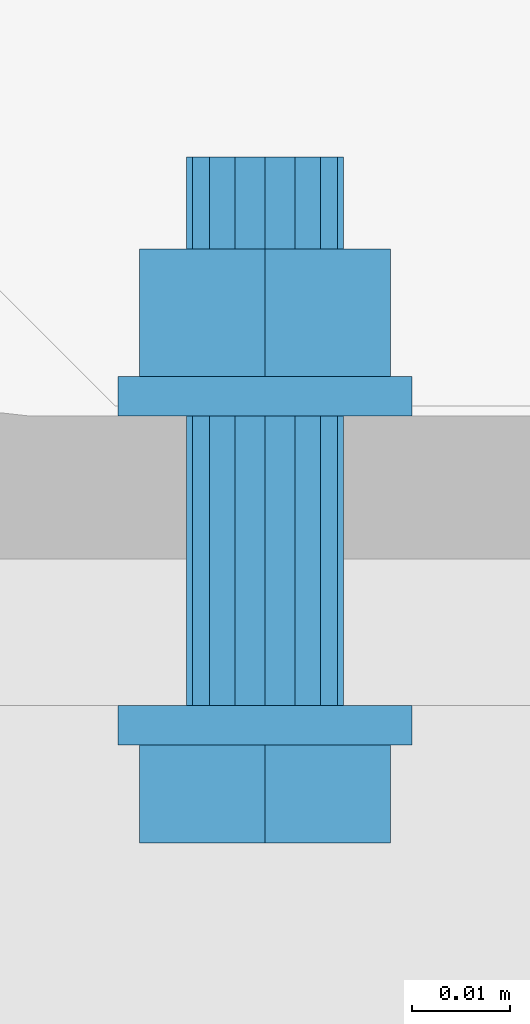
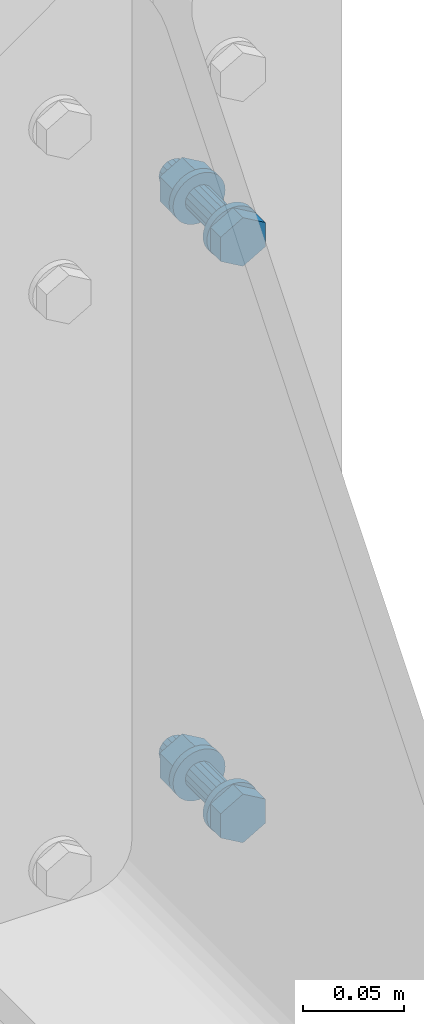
# Not in any storey, part 43 of 50: 2 mechanical fasteners.
"""IFC4 model written with IfcOpenShell, lengths in metres."""

from ifc_helpers import new_model, entity, si_unit, converted_unit, derived_unit, direction, origin, origin_with_axes, place, context, project, spatial, faceted_brep, element, save


model = new_model("IFC4")

# Units and contexts
model_context = context("Model", 3, precision=1e-05, world=origin(), true_north=direction((6.123233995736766e-17, 1.0)))
ifc_project = project(units=[si_unit("LENGTHUNIT", "METRE"), si_unit("AREAUNIT", "SQUARE_METRE"), converted_unit("PLANEANGLEUNIT", "DEGREE", entity("IfcPlaneAngleMeasure", 0.017453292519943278), si_unit("PLANEANGLEUNIT", "RADIAN"), dimensions=[0, 0, 0, 0, 0, 0, 0]), si_unit("VOLUMEUNIT", "CUBIC_METRE"), derived_unit("THERMALTRANSMITTANCEUNIT", [(si_unit("MASSUNIT", "GRAM", prefix="KILO"), 1), (si_unit("THERMODYNAMICTEMPERATUREUNIT", "KELVIN"), -1), (si_unit("TIMEUNIT", "SECOND"), -3)])], contexts=[model_context])

# Site
site_placement = place(None, origin())
site = spatial("IfcSite", under=ifc_project, at=site_placement, Name="Default", CompositionType="ELEMENT")

# Mechanical fasteners
mechanical_fastener_1_placement = place(site_placement, origin_with_axes())
element("IfcMechanicalFastener", 1, at=mechanical_fastener_1_placement, inside=site, ObjectType="Bolt#5", NominalDiameter=0.016, NominalLength=0.06, context=model_context, shape_type="Brep", body=[
    faceted_brep([(18.225144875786, 17.685767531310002, 5.795), (18.225144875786, 17.68976753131, 5.795), (18.22543309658, 17.68976753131, 5.79207364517), (18.22543309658, 17.685767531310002, 5.79207364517), (18.226286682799, 17.68976753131, 5.789259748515), (18.226286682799, 17.685767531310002, 5.789259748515), (18.227672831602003, 17.68976753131, 5.7866664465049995), (18.227672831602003, 17.685767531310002, 5.7866664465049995), (18.229538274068, 17.68976753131, 5.784393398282), (18.229538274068, 17.685767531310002, 5.784393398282), (18.231811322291, 17.68976753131, 5.782527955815), (18.231811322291, 17.685767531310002, 5.782527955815), (18.234404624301, 17.68976753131, 5.781141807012), (18.234404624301, 17.685767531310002, 5.781141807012), (18.237218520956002, 17.68976753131, 5.7802882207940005), (18.237218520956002, 17.685767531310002, 5.7802882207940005), (18.240144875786, 17.68976753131, 5.78), (18.240144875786, 17.685767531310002, 5.78), (18.243071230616, 17.68976753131, 5.7802882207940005), (18.243071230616, 17.685767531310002, 5.7802882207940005), (18.245885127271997, 17.68976753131, 5.781141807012), (18.245885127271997, 17.685767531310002, 5.781141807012), (18.248478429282, 17.68976753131, 5.782527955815), (18.248478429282, 17.685767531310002, 5.782527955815), (18.250751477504, 17.68976753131, 5.784393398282), (18.250751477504, 17.685767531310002, 5.784393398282), (18.252616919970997, 17.68976753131, 5.7866664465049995), (18.252616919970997, 17.685767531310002, 5.7866664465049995), (18.254003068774, 17.68976753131, 5.789259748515), (18.254003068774, 17.685767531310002, 5.789259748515), (18.254856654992, 17.68976753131, 5.79207364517), (18.254856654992, 17.685767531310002, 5.79207364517), (18.255144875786, 17.68976753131, 5.795), (18.255144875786, 17.685767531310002, 5.795), (18.254856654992, 17.68976753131, 5.7979263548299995), (18.254856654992, 17.685767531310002, 5.7979263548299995), (18.254003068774, 17.68976753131, 5.800740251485), (18.254003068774, 17.685767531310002, 5.800740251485), (18.252616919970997, 17.68976753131, 5.803333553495), (18.252616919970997, 17.685767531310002, 5.803333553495), (18.250751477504, 17.68976753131, 5.805606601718), (18.250751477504, 17.685767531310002, 5.805606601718), (18.248478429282, 17.68976753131, 5.807472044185), (18.248478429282, 17.685767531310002, 5.807472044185), (18.245885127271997, 17.68976753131, 5.8088581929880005), (18.245885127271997, 17.685767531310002, 5.8088581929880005), (18.243071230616, 17.68976753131, 5.809711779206), (18.243071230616, 17.685767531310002, 5.809711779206), (18.240144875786, 17.68976753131, 5.81), (18.240144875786, 17.685767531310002, 5.81), (18.237218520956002, 17.68976753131, 5.809711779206), (18.237218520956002, 17.685767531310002, 5.809711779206), (18.234404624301, 17.68976753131, 5.8088581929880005), (18.234404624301, 17.685767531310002, 5.8088581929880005), (18.231811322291, 17.68976753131, 5.807472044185), (18.231811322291, 17.685767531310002, 5.807472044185), (18.229538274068, 17.68976753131, 5.805606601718), (18.229538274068, 17.685767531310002, 5.805606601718), (18.227672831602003, 17.68976753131, 5.803333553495), (18.227672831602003, 17.685767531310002, 5.803333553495), (18.226286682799, 17.68976753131, 5.800740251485), (18.226286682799, 17.685767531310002, 5.800740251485), (18.22543309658, 17.68976753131, 5.7979263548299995), (18.22543309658, 17.685767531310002, 5.7979263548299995)], [[[0, 1, 2, 3]], [[3, 2, 4, 5]], [[5, 4, 6, 7]], [[7, 6, 8, 9]], [[9, 8, 10, 11]], [[11, 10, 12, 13]], [[13, 12, 14, 15]], [[15, 14, 16, 17]], [[17, 16, 18, 19]], [[19, 18, 20, 21]], [[21, 20, 22, 23]], [[23, 22, 24, 25]], [[25, 24, 26, 27]], [[27, 26, 28, 29]], [[29, 28, 30, 31]], [[31, 30, 32, 33]], [[33, 32, 34, 35]], [[35, 34, 36, 37]], [[37, 36, 38, 39]], [[39, 38, 40, 41]], [[41, 40, 42, 43]], [[43, 42, 44, 45]], [[45, 44, 46, 47]], [[47, 46, 48, 49]], [[49, 48, 50, 51]], [[51, 50, 52, 53]], [[53, 52, 54, 55]], [[55, 54, 56, 57]], [[57, 56, 58, 59]], [[59, 58, 60, 61]], [[61, 60, 62, 63]], [[63, 62, 1, 0]], [[0, 3, 5, 7, 9, 11, 13, 15, 17, 19, 21, 23, 25, 27, 29, 31, 33, 35, 37, 39, 41, 43, 45, 47, 49, 51, 53, 55, 57, 59, 61, 63]], [[1, 62, 60, 58, 56, 54, 52, 50, 48, 46, 44, 42, 40, 38, 36, 34, 32, 30, 28, 26, 24, 22, 20, 18, 16, 14, 12, 10, 8, 6, 4, 2]]]),
    faceted_brep([(18.252944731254, 17.685767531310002, 5.78761), (18.252944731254, 17.67576753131, 5.78761), (18.240144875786, 17.67576753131, 5.78022), (18.240144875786, 17.685767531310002, 5.78022), (18.227345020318, 17.67576753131, 5.78761), (18.227345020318, 17.685767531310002, 5.78761), (18.227345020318, 17.67576753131, 5.80239), (18.227345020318, 17.685767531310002, 5.80239), (18.240144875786, 17.67576753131, 5.80978), (18.240144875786, 17.685767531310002, 5.80978), (18.252944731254, 17.67576753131, 5.80239), (18.252944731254, 17.685767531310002, 5.80239)], [[[0, 1, 2, 3]], [[3, 2, 4, 5]], [[5, 4, 6, 7]], [[7, 6, 8, 9]], [[9, 8, 10, 11]], [[11, 10, 1, 0]], [[4, 2, 1, 10, 8, 6]], [[0, 3, 5, 7, 9, 11]]]),
    faceted_brep([(18.232144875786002, 17.68976753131, 5.795), (18.232144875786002, 17.71936753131, 5.795), (18.232753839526, 17.71936753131, 5.791938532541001), (18.232753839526, 17.68976753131, 5.791938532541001), (18.234488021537, 17.71936753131, 5.789343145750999), (18.234488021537, 17.68976753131, 5.789343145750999), (18.237083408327, 17.71936753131, 5.78760896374), (18.237083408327, 17.68976753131, 5.78760896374), (18.240144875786, 17.71936753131, 5.787), (18.240144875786, 17.68976753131, 5.787), (18.243206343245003, 17.71936753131, 5.78760896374), (18.243206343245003, 17.68976753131, 5.78760896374), (18.245801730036, 17.71936753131, 5.789343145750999), (18.245801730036, 17.68976753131, 5.789343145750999), (18.247535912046, 17.71936753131, 5.791938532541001), (18.247535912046, 17.68976753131, 5.791938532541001), (18.248144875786, 17.71936753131, 5.795), (18.248144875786, 17.68976753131, 5.795), (18.247535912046, 17.71936753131, 5.798061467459), (18.247535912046, 17.68976753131, 5.798061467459), (18.245801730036, 17.71936753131, 5.8006568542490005), (18.245801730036, 17.68976753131, 5.8006568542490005), (18.243206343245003, 17.71936753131, 5.8023910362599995), (18.243206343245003, 17.68976753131, 5.8023910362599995), (18.240144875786, 17.71936753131, 5.803), (18.240144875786, 17.68976753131, 5.803), (18.237083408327, 17.71936753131, 5.8023910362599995), (18.237083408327, 17.68976753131, 5.8023910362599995), (18.234488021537, 17.71936753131, 5.8006568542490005), (18.234488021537, 17.68976753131, 5.8006568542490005), (18.232753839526, 17.71936753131, 5.798061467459), (18.232753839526, 17.68976753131, 5.798061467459)], [[[0, 1, 2, 3]], [[3, 2, 4, 5]], [[5, 4, 6, 7]], [[7, 6, 8, 9]], [[9, 8, 10, 11]], [[11, 10, 12, 13]], [[13, 12, 14, 15]], [[15, 14, 16, 17]], [[17, 16, 18, 19]], [[19, 18, 20, 21]], [[21, 20, 22, 23]], [[23, 22, 24, 25]], [[25, 24, 26, 27]], [[27, 26, 28, 29]], [[29, 28, 30, 31]], [[31, 30, 1, 0]], [[0, 3, 5, 7, 9, 11, 13, 15, 17, 19, 21, 23, 25, 27, 29, 31]], [[1, 30, 28, 26, 24, 22, 20, 18, 16, 14, 12, 10, 8, 6, 4, 2]]]),
    faceted_brep([(18.225144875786, 17.71936753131, 5.795), (18.225144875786, 17.72336753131, 5.795), (18.22543309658, 17.72336753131, 5.79207364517), (18.22543309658, 17.71936753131, 5.79207364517), (18.226286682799, 17.72336753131, 5.789259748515), (18.226286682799, 17.71936753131, 5.789259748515), (18.227672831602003, 17.72336753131, 5.7866664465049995), (18.227672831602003, 17.71936753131, 5.7866664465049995), (18.229538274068, 17.72336753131, 5.784393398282), (18.229538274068, 17.71936753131, 5.784393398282), (18.231811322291, 17.72336753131, 5.782527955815), (18.231811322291, 17.71936753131, 5.782527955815), (18.234404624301, 17.72336753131, 5.781141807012), (18.234404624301, 17.71936753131, 5.781141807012), (18.237218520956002, 17.72336753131, 5.7802882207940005), (18.237218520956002, 17.71936753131, 5.7802882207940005), (18.240144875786, 17.72336753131, 5.78), (18.240144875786, 17.71936753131, 5.78), (18.243071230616, 17.72336753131, 5.7802882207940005), (18.243071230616, 17.71936753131, 5.7802882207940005), (18.245885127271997, 17.72336753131, 5.781141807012), (18.245885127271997, 17.71936753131, 5.781141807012), (18.248478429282, 17.72336753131, 5.782527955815), (18.248478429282, 17.71936753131, 5.782527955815), (18.250751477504, 17.72336753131, 5.784393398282), (18.250751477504, 17.71936753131, 5.784393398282), (18.252616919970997, 17.72336753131, 5.7866664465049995), (18.252616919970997, 17.71936753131, 5.7866664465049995), (18.254003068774, 17.72336753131, 5.789259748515), (18.254003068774, 17.71936753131, 5.789259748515), (18.254856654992, 17.72336753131, 5.79207364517), (18.254856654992, 17.71936753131, 5.79207364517), (18.255144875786, 17.72336753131, 5.795), (18.255144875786, 17.71936753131, 5.795), (18.254856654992, 17.72336753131, 5.7979263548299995), (18.254856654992, 17.71936753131, 5.7979263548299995), (18.254003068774, 17.72336753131, 5.800740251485), (18.254003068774, 17.71936753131, 5.800740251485), (18.252616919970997, 17.72336753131, 5.803333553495), (18.252616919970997, 17.71936753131, 5.803333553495), (18.250751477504, 17.72336753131, 5.805606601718), (18.250751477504, 17.71936753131, 5.805606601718), (18.248478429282, 17.72336753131, 5.807472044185), (18.248478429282, 17.71936753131, 5.807472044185), (18.245885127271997, 17.72336753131, 5.8088581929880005), (18.245885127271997, 17.71936753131, 5.8088581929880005), (18.243071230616, 17.72336753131, 5.809711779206), (18.243071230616, 17.71936753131, 5.809711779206), (18.240144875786, 17.72336753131, 5.81), (18.240144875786, 17.71936753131, 5.81), (18.237218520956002, 17.72336753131, 5.809711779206), (18.237218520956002, 17.71936753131, 5.809711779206), (18.234404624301, 17.72336753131, 5.8088581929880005), (18.234404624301, 17.71936753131, 5.8088581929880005), (18.231811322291, 17.72336753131, 5.807472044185), (18.231811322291, 17.71936753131, 5.807472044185), (18.229538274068, 17.72336753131, 5.805606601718), (18.229538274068, 17.71936753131, 5.805606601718), (18.227672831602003, 17.72336753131, 5.803333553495), (18.227672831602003, 17.71936753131, 5.803333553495), (18.226286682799, 17.72336753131, 5.800740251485), (18.226286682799, 17.71936753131, 5.800740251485), (18.22543309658, 17.72336753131, 5.7979263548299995), (18.22543309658, 17.71936753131, 5.7979263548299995)], [[[0, 1, 2, 3]], [[3, 2, 4, 5]], [[5, 4, 6, 7]], [[7, 6, 8, 9]], [[9, 8, 10, 11]], [[11, 10, 12, 13]], [[13, 12, 14, 15]], [[15, 14, 16, 17]], [[17, 16, 18, 19]], [[19, 18, 20, 21]], [[21, 20, 22, 23]], [[23, 22, 24, 25]], [[25, 24, 26, 27]], [[27, 26, 28, 29]], [[29, 28, 30, 31]], [[31, 30, 32, 33]], [[33, 32, 34, 35]], [[35, 34, 36, 37]], [[37, 36, 38, 39]], [[39, 38, 40, 41]], [[41, 40, 42, 43]], [[43, 42, 44, 45]], [[45, 44, 46, 47]], [[47, 46, 48, 49]], [[49, 48, 50, 51]], [[51, 50, 52, 53]], [[53, 52, 54, 55]], [[55, 54, 56, 57]], [[57, 56, 58, 59]], [[59, 58, 60, 61]], [[61, 60, 62, 63]], [[63, 62, 1, 0]], [[0, 3, 5, 7, 9, 11, 13, 15, 17, 19, 21, 23, 25, 27, 29, 31, 33, 35, 37, 39, 41, 43, 45, 47, 49, 51, 53, 55, 57, 59, 61, 63]], [[1, 62, 60, 58, 56, 54, 52, 50, 48, 46, 44, 42, 40, 38, 36, 34, 32, 30, 28, 26, 24, 22, 20, 18, 16, 14, 12, 10, 8, 6, 4, 2]]]),
    faceted_brep([(18.252944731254, 17.736367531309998, 5.78761), (18.252944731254, 17.72336753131, 5.78761), (18.240144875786, 17.72336753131, 5.78022), (18.240144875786, 17.736367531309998, 5.78022), (18.227345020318, 17.72336753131, 5.78761), (18.227345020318, 17.736367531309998, 5.78761), (18.227345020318, 17.72336753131, 5.80239), (18.227345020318, 17.736367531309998, 5.80239), (18.240144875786, 17.72336753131, 5.80978), (18.240144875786, 17.736367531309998, 5.80978), (18.252944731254, 17.72336753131, 5.80239), (18.252944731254, 17.736367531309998, 5.80239)], [[[0, 1, 2, 3]], [[3, 2, 4, 5]], [[5, 4, 6, 7]], [[7, 6, 8, 9]], [[9, 8, 10, 11]], [[11, 10, 1, 0]], [[4, 2, 1, 10, 8, 6]], [[0, 3, 5, 7, 9, 11]]]),
    faceted_brep([(18.232144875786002, 17.736367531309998, 5.795), (18.232144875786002, 17.74576753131, 5.795), (18.232753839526, 17.74576753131, 5.791938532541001), (18.232753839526, 17.736367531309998, 5.791938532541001), (18.234488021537, 17.74576753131, 5.789343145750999), (18.234488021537, 17.736367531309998, 5.789343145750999), (18.237083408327, 17.74576753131, 5.78760896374), (18.237083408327, 17.736367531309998, 5.78760896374), (18.240144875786, 17.74576753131, 5.787), (18.240144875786, 17.736367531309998, 5.787), (18.243206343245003, 17.74576753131, 5.78760896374), (18.243206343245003, 17.736367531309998, 5.78760896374), (18.245801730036, 17.74576753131, 5.789343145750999), (18.245801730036, 17.736367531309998, 5.789343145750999), (18.247535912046, 17.74576753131, 5.791938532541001), (18.247535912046, 17.736367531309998, 5.791938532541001), (18.248144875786, 17.74576753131, 5.795), (18.248144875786, 17.736367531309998, 5.795), (18.247535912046, 17.74576753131, 5.798061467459), (18.247535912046, 17.736367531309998, 5.798061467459), (18.245801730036, 17.74576753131, 5.8006568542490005), (18.245801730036, 17.736367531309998, 5.8006568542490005), (18.243206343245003, 17.74576753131, 5.8023910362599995), (18.243206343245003, 17.736367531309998, 5.8023910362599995), (18.240144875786, 17.74576753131, 5.803), (18.240144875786, 17.736367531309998, 5.803), (18.237083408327, 17.74576753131, 5.8023910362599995), (18.237083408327, 17.736367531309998, 5.8023910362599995), (18.234488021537, 17.74576753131, 5.8006568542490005), (18.234488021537, 17.736367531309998, 5.8006568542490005), (18.232753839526, 17.74576753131, 5.798061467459), (18.232753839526, 17.736367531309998, 5.798061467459)], [[[0, 1, 2, 3]], [[3, 2, 4, 5]], [[5, 4, 6, 7]], [[7, 6, 8, 9]], [[9, 8, 10, 11]], [[11, 10, 12, 13]], [[13, 12, 14, 15]], [[15, 14, 16, 17]], [[17, 16, 18, 19]], [[19, 18, 20, 21]], [[21, 20, 22, 23]], [[23, 22, 24, 25]], [[25, 24, 26, 27]], [[27, 26, 28, 29]], [[29, 28, 30, 31]], [[31, 30, 1, 0]], [[0, 3, 5, 7, 9, 11, 13, 15, 17, 19, 21, 23, 25, 27, 29, 31]], [[1, 30, 28, 26, 24, 22, 20, 18, 16, 14, 12, 10, 8, 6, 4, 2]]]),
])
mechanical_fastener_2_placement = place(site_placement, origin_with_axes())
element("IfcMechanicalFastener", 2, at=mechanical_fastener_2_placement, inside=site, ObjectType="Bolt#6", NominalDiameter=0.016, NominalLength=0.06, context=model_context, shape_type="Brep", body=[
    faceted_brep([(18.225144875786, 17.685767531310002, 5.445), (18.225144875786, 17.68976753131, 5.445), (18.22543309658, 17.68976753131, 5.442073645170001), (18.22543309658, 17.685767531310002, 5.442073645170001), (18.226286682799, 17.68976753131, 5.439259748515), (18.226286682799, 17.685767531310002, 5.439259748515), (18.227672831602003, 17.68976753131, 5.436666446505), (18.227672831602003, 17.685767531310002, 5.436666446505), (18.229538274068, 17.68976753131, 5.434393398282), (18.229538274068, 17.685767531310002, 5.434393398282), (18.231811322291, 17.68976753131, 5.432527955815), (18.231811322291, 17.685767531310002, 5.432527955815), (18.234404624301, 17.68976753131, 5.431141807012), (18.234404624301, 17.685767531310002, 5.431141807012), (18.237218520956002, 17.68976753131, 5.430288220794), (18.237218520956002, 17.685767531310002, 5.430288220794), (18.240144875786, 17.68976753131, 5.43), (18.240144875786, 17.685767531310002, 5.43), (18.243071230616, 17.68976753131, 5.430288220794), (18.243071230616, 17.685767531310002, 5.430288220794), (18.245885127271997, 17.68976753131, 5.431141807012), (18.245885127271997, 17.685767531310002, 5.431141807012), (18.248478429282, 17.68976753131, 5.432527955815), (18.248478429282, 17.685767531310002, 5.432527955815), (18.250751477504, 17.68976753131, 5.434393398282), (18.250751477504, 17.685767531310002, 5.434393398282), (18.252616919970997, 17.68976753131, 5.436666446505), (18.252616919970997, 17.685767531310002, 5.436666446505), (18.254003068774, 17.68976753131, 5.439259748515), (18.254003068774, 17.685767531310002, 5.439259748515), (18.254856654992, 17.68976753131, 5.442073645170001), (18.254856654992, 17.685767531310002, 5.442073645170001), (18.255144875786, 17.68976753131, 5.445), (18.255144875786, 17.685767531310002, 5.445), (18.254856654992, 17.68976753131, 5.44792635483), (18.254856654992, 17.685767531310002, 5.44792635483), (18.254003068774, 17.68976753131, 5.450740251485), (18.254003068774, 17.685767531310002, 5.450740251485), (18.252616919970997, 17.68976753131, 5.453333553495), (18.252616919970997, 17.685767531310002, 5.453333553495), (18.250751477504, 17.68976753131, 5.455606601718), (18.250751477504, 17.685767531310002, 5.455606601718), (18.248478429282, 17.68976753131, 5.457472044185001), (18.248478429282, 17.685767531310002, 5.457472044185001), (18.245885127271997, 17.68976753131, 5.458858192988), (18.245885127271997, 17.685767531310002, 5.458858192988), (18.243071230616, 17.68976753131, 5.459711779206), (18.243071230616, 17.685767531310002, 5.459711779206), (18.240144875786, 17.68976753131, 5.46), (18.240144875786, 17.685767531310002, 5.46), (18.237218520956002, 17.68976753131, 5.459711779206), (18.237218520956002, 17.685767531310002, 5.459711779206), (18.234404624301, 17.68976753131, 5.458858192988), (18.234404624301, 17.685767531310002, 5.458858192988), (18.231811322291, 17.68976753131, 5.457472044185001), (18.231811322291, 17.685767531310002, 5.457472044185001), (18.229538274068, 17.68976753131, 5.455606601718), (18.229538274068, 17.685767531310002, 5.455606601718), (18.227672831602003, 17.68976753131, 5.453333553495), (18.227672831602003, 17.685767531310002, 5.453333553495), (18.226286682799, 17.68976753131, 5.450740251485), (18.226286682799, 17.685767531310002, 5.450740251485), (18.22543309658, 17.68976753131, 5.44792635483), (18.22543309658, 17.685767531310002, 5.44792635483)], [[[0, 1, 2, 3]], [[3, 2, 4, 5]], [[5, 4, 6, 7]], [[7, 6, 8, 9]], [[9, 8, 10, 11]], [[11, 10, 12, 13]], [[13, 12, 14, 15]], [[15, 14, 16, 17]], [[17, 16, 18, 19]], [[19, 18, 20, 21]], [[21, 20, 22, 23]], [[23, 22, 24, 25]], [[25, 24, 26, 27]], [[27, 26, 28, 29]], [[29, 28, 30, 31]], [[31, 30, 32, 33]], [[33, 32, 34, 35]], [[35, 34, 36, 37]], [[37, 36, 38, 39]], [[39, 38, 40, 41]], [[41, 40, 42, 43]], [[43, 42, 44, 45]], [[45, 44, 46, 47]], [[47, 46, 48, 49]], [[49, 48, 50, 51]], [[51, 50, 52, 53]], [[53, 52, 54, 55]], [[55, 54, 56, 57]], [[57, 56, 58, 59]], [[59, 58, 60, 61]], [[61, 60, 62, 63]], [[63, 62, 1, 0]], [[0, 3, 5, 7, 9, 11, 13, 15, 17, 19, 21, 23, 25, 27, 29, 31, 33, 35, 37, 39, 41, 43, 45, 47, 49, 51, 53, 55, 57, 59, 61, 63]], [[1, 62, 60, 58, 56, 54, 52, 50, 48, 46, 44, 42, 40, 38, 36, 34, 32, 30, 28, 26, 24, 22, 20, 18, 16, 14, 12, 10, 8, 6, 4, 2]]]),
    faceted_brep([(18.252944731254, 17.685767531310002, 5.437609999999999), (18.252944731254, 17.67576753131, 5.437609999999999), (18.240144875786, 17.67576753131, 5.43022), (18.240144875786, 17.685767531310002, 5.43022), (18.227345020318, 17.67576753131, 5.437609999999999), (18.227345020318, 17.685767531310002, 5.437609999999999), (18.227345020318, 17.67576753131, 5.45239), (18.227345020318, 17.685767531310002, 5.45239), (18.240144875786, 17.67576753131, 5.459779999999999), (18.240144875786, 17.685767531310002, 5.459779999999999), (18.252944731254, 17.67576753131, 5.45239), (18.252944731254, 17.685767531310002, 5.45239)], [[[0, 1, 2, 3]], [[3, 2, 4, 5]], [[5, 4, 6, 7]], [[7, 6, 8, 9]], [[9, 8, 10, 11]], [[11, 10, 1, 0]], [[4, 2, 1, 10, 8, 6]], [[0, 3, 5, 7, 9, 11]]]),
    faceted_brep([(18.232144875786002, 17.68976753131, 5.445), (18.232144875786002, 17.71936753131, 5.445), (18.232753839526, 17.71936753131, 5.441938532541), (18.232753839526, 17.68976753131, 5.441938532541), (18.234488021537, 17.71936753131, 5.439343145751), (18.234488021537, 17.68976753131, 5.439343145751), (18.237083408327, 17.71936753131, 5.43760896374), (18.237083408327, 17.68976753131, 5.43760896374), (18.240144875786, 17.71936753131, 5.437), (18.240144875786, 17.68976753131, 5.437), (18.243206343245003, 17.71936753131, 5.43760896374), (18.243206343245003, 17.68976753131, 5.43760896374), (18.245801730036, 17.71936753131, 5.439343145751), (18.245801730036, 17.68976753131, 5.439343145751), (18.247535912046, 17.71936753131, 5.441938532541), (18.247535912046, 17.68976753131, 5.441938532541), (18.248144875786, 17.71936753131, 5.445), (18.248144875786, 17.68976753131, 5.445), (18.247535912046, 17.71936753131, 5.4480614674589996), (18.247535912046, 17.68976753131, 5.4480614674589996), (18.245801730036, 17.71936753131, 5.450656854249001), (18.245801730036, 17.68976753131, 5.450656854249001), (18.243206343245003, 17.71936753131, 5.45239103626), (18.243206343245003, 17.68976753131, 5.45239103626), (18.240144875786, 17.71936753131, 5.453), (18.240144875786, 17.68976753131, 5.453), (18.237083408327, 17.71936753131, 5.45239103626), (18.237083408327, 17.68976753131, 5.45239103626), (18.234488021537, 17.71936753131, 5.450656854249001), (18.234488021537, 17.68976753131, 5.450656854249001), (18.232753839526, 17.71936753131, 5.4480614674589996), (18.232753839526, 17.68976753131, 5.4480614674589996)], [[[0, 1, 2, 3]], [[3, 2, 4, 5]], [[5, 4, 6, 7]], [[7, 6, 8, 9]], [[9, 8, 10, 11]], [[11, 10, 12, 13]], [[13, 12, 14, 15]], [[15, 14, 16, 17]], [[17, 16, 18, 19]], [[19, 18, 20, 21]], [[21, 20, 22, 23]], [[23, 22, 24, 25]], [[25, 24, 26, 27]], [[27, 26, 28, 29]], [[29, 28, 30, 31]], [[31, 30, 1, 0]], [[0, 3, 5, 7, 9, 11, 13, 15, 17, 19, 21, 23, 25, 27, 29, 31]], [[1, 30, 28, 26, 24, 22, 20, 18, 16, 14, 12, 10, 8, 6, 4, 2]]]),
    faceted_brep([(18.225144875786, 17.71936753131, 5.445), (18.225144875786, 17.72336753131, 5.445), (18.22543309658, 17.72336753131, 5.442073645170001), (18.22543309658, 17.71936753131, 5.442073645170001), (18.226286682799, 17.72336753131, 5.439259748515), (18.226286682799, 17.71936753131, 5.439259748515), (18.227672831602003, 17.72336753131, 5.436666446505), (18.227672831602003, 17.71936753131, 5.436666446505), (18.229538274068, 17.72336753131, 5.434393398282), (18.229538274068, 17.71936753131, 5.434393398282), (18.231811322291, 17.72336753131, 5.432527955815), (18.231811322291, 17.71936753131, 5.432527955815), (18.234404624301, 17.72336753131, 5.431141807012), (18.234404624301, 17.71936753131, 5.431141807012), (18.237218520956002, 17.72336753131, 5.430288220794), (18.237218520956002, 17.71936753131, 5.430288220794), (18.240144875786, 17.72336753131, 5.43), (18.240144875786, 17.71936753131, 5.43), (18.243071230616, 17.72336753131, 5.430288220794), (18.243071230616, 17.71936753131, 5.430288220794), (18.245885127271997, 17.72336753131, 5.431141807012), (18.245885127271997, 17.71936753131, 5.431141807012), (18.248478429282, 17.72336753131, 5.432527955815), (18.248478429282, 17.71936753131, 5.432527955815), (18.250751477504, 17.72336753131, 5.434393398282), (18.250751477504, 17.71936753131, 5.434393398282), (18.252616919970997, 17.72336753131, 5.436666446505), (18.252616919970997, 17.71936753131, 5.436666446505), (18.254003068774, 17.72336753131, 5.439259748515), (18.254003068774, 17.71936753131, 5.439259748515), (18.254856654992, 17.72336753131, 5.442073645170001), (18.254856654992, 17.71936753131, 5.442073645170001), (18.255144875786, 17.72336753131, 5.445), (18.255144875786, 17.71936753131, 5.445), (18.254856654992, 17.72336753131, 5.44792635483), (18.254856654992, 17.71936753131, 5.44792635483), (18.254003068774, 17.72336753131, 5.450740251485), (18.254003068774, 17.71936753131, 5.450740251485), (18.252616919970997, 17.72336753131, 5.453333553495), (18.252616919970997, 17.71936753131, 5.453333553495), (18.250751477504, 17.72336753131, 5.455606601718), (18.250751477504, 17.71936753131, 5.455606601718), (18.248478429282, 17.72336753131, 5.457472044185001), (18.248478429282, 17.71936753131, 5.457472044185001), (18.245885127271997, 17.72336753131, 5.458858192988), (18.245885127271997, 17.71936753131, 5.458858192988), (18.243071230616, 17.72336753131, 5.459711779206), (18.243071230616, 17.71936753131, 5.459711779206), (18.240144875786, 17.72336753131, 5.46), (18.240144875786, 17.71936753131, 5.46), (18.237218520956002, 17.72336753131, 5.459711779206), (18.237218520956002, 17.71936753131, 5.459711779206), (18.234404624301, 17.72336753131, 5.458858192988), (18.234404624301, 17.71936753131, 5.458858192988), (18.231811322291, 17.72336753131, 5.457472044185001), (18.231811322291, 17.71936753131, 5.457472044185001), (18.229538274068, 17.72336753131, 5.455606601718), (18.229538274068, 17.71936753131, 5.455606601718), (18.227672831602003, 17.72336753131, 5.453333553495), (18.227672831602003, 17.71936753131, 5.453333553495), (18.226286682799, 17.72336753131, 5.450740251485), (18.226286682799, 17.71936753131, 5.450740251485), (18.22543309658, 17.72336753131, 5.44792635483), (18.22543309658, 17.71936753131, 5.44792635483)], [[[0, 1, 2, 3]], [[3, 2, 4, 5]], [[5, 4, 6, 7]], [[7, 6, 8, 9]], [[9, 8, 10, 11]], [[11, 10, 12, 13]], [[13, 12, 14, 15]], [[15, 14, 16, 17]], [[17, 16, 18, 19]], [[19, 18, 20, 21]], [[21, 20, 22, 23]], [[23, 22, 24, 25]], [[25, 24, 26, 27]], [[27, 26, 28, 29]], [[29, 28, 30, 31]], [[31, 30, 32, 33]], [[33, 32, 34, 35]], [[35, 34, 36, 37]], [[37, 36, 38, 39]], [[39, 38, 40, 41]], [[41, 40, 42, 43]], [[43, 42, 44, 45]], [[45, 44, 46, 47]], [[47, 46, 48, 49]], [[49, 48, 50, 51]], [[51, 50, 52, 53]], [[53, 52, 54, 55]], [[55, 54, 56, 57]], [[57, 56, 58, 59]], [[59, 58, 60, 61]], [[61, 60, 62, 63]], [[63, 62, 1, 0]], [[0, 3, 5, 7, 9, 11, 13, 15, 17, 19, 21, 23, 25, 27, 29, 31, 33, 35, 37, 39, 41, 43, 45, 47, 49, 51, 53, 55, 57, 59, 61, 63]], [[1, 62, 60, 58, 56, 54, 52, 50, 48, 46, 44, 42, 40, 38, 36, 34, 32, 30, 28, 26, 24, 22, 20, 18, 16, 14, 12, 10, 8, 6, 4, 2]]]),
    faceted_brep([(18.252944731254, 17.736367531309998, 5.437609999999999), (18.252944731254, 17.72336753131, 5.437609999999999), (18.240144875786, 17.72336753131, 5.43022), (18.240144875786, 17.736367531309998, 5.43022), (18.227345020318, 17.72336753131, 5.437609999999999), (18.227345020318, 17.736367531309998, 5.437609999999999), (18.227345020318, 17.72336753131, 5.45239), (18.227345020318, 17.736367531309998, 5.45239), (18.240144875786, 17.72336753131, 5.459779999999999), (18.240144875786, 17.736367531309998, 5.459779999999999), (18.252944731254, 17.72336753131, 5.45239), (18.252944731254, 17.736367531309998, 5.45239)], [[[0, 1, 2, 3]], [[3, 2, 4, 5]], [[5, 4, 6, 7]], [[7, 6, 8, 9]], [[9, 8, 10, 11]], [[11, 10, 1, 0]], [[4, 2, 1, 10, 8, 6]], [[0, 3, 5, 7, 9, 11]]]),
    faceted_brep([(18.232144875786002, 17.736367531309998, 5.445), (18.232144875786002, 17.74576753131, 5.445), (18.232753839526, 17.74576753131, 5.441938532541), (18.232753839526, 17.736367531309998, 5.441938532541), (18.234488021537, 17.74576753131, 5.439343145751), (18.234488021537, 17.736367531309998, 5.439343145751), (18.237083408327, 17.74576753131, 5.43760896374), (18.237083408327, 17.736367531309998, 5.43760896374), (18.240144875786, 17.74576753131, 5.437), (18.240144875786, 17.736367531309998, 5.437), (18.243206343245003, 17.74576753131, 5.43760896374), (18.243206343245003, 17.736367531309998, 5.43760896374), (18.245801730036, 17.74576753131, 5.439343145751), (18.245801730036, 17.736367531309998, 5.439343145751), (18.247535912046, 17.74576753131, 5.441938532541), (18.247535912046, 17.736367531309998, 5.441938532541), (18.248144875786, 17.74576753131, 5.445), (18.248144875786, 17.736367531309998, 5.445), (18.247535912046, 17.74576753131, 5.4480614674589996), (18.247535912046, 17.736367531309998, 5.4480614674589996), (18.245801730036, 17.74576753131, 5.450656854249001), (18.245801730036, 17.736367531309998, 5.450656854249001), (18.243206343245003, 17.74576753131, 5.45239103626), (18.243206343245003, 17.736367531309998, 5.45239103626), (18.240144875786, 17.74576753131, 5.453), (18.240144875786, 17.736367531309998, 5.453), (18.237083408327, 17.74576753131, 5.45239103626), (18.237083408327, 17.736367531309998, 5.45239103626), (18.234488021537, 17.74576753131, 5.450656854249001), (18.234488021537, 17.736367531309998, 5.450656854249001), (18.232753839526, 17.74576753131, 5.4480614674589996), (18.232753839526, 17.736367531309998, 5.4480614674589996)], [[[0, 1, 2, 3]], [[3, 2, 4, 5]], [[5, 4, 6, 7]], [[7, 6, 8, 9]], [[9, 8, 10, 11]], [[11, 10, 12, 13]], [[13, 12, 14, 15]], [[15, 14, 16, 17]], [[17, 16, 18, 19]], [[19, 18, 20, 21]], [[21, 20, 22, 23]], [[23, 22, 24, 25]], [[25, 24, 26, 27]], [[27, 26, 28, 29]], [[29, 28, 30, 31]], [[31, 30, 1, 0]], [[0, 3, 5, 7, 9, 11, 13, 15, 17, 19, 21, 23, 25, 27, 29, 31]], [[1, 30, 28, 26, 24, 22, 20, 18, 16, 14, 12, 10, 8, 6, 4, 2]]]),
])

save(model, "model.ifc")
